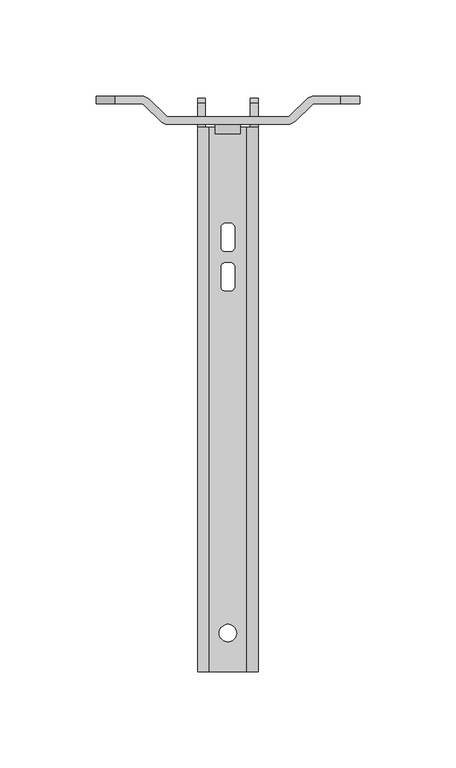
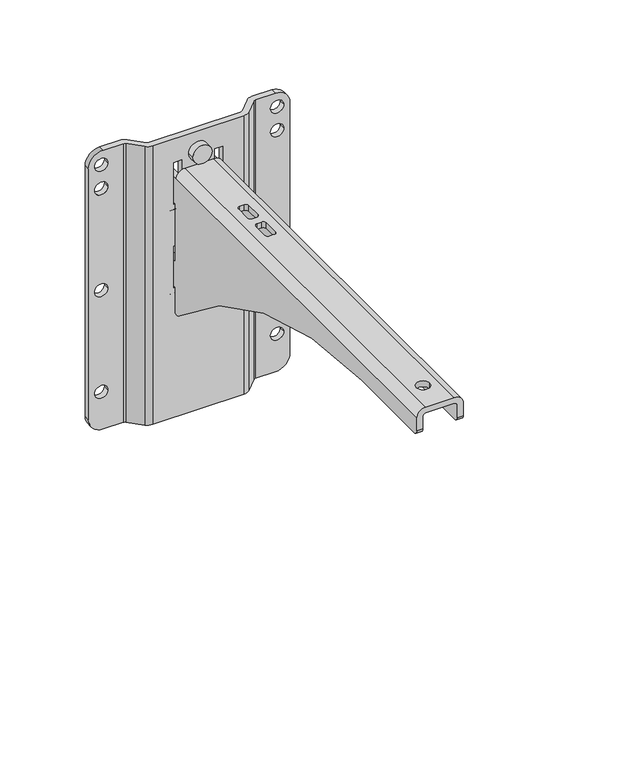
"""IFC4 building model written with IfcOpenShell, lengths in millimetres: proxy geometry, ePS8-WM280-HBRK425-WHM : ePS8-WM280-HBRK425-WHM."""

from ifc_helpers import new_model, si_unit, point, frame, frame_2d, origin, place, context, project, spatial, polyline, circle_curve, trimmed, segment, composite_curve, outline, extrude, source, transform, mapped, element, save
from ifc_brep_helpers import plane_surface, cylinder_surface, revolved_surface, advanced_brep


def generic_models_77c1a001(model_context):
    return source(origin(), model_context, "Body", "SolidModel", [
        advanced_brep(
        [(-11.75, -299.1066017, -18.0), (-9.75, -299.1066017, -16.0), (9.75, -299.1066017, -16.0), (11.75, -299.1066017, -18.0), (11.75, -299.1066017, -27.0), (15.75, -299.1066017, -27.0), (15.75, -299.1066017, -17.9999955), (9.7500045, -299.1066017, -12.0), (-9.7500045, -299.1066017, -12.0), (-15.75, -299.1066017, -17.9999955), (-15.75, -299.1066017, -27.0), (-11.75, -299.1066017, -27.0), (15.75, -1.0, -19.5148645), (15.75, -1.0, -44.4851355), (11.75, -1.0, -44.4851355), (11.75, -1.0, -19.5148645), (15.75, -1.0, -79.5148645), (15.75, -1.0, -104.4851355), (11.75, -1.0, -104.4851355), (11.75, -1.0, -79.5148645), (-11.75, -1.0, -19.5148645), (-11.75, -1.0, -44.4851355), (-15.75, -1.0, -44.4851355), (-15.75, -1.0, -19.5148645), (-11.75, -1.0, -79.5148645), (-11.75, -1.0, -104.4851355), (-15.75, -1.0, -104.4851355), (-15.75, -1.0, -79.5148645), (-15.75, -16.1066017, -17.9999955), (-15.75, -3.6066017, -18.0), (-15.75, -3.6066017, -46.0), (-15.75, -6.6066017, -46.0), (-15.75, -9.6066017, -43.0), (-15.75, -9.6066017, -36.5), (-15.75, -14.6066017, -36.5), (-15.75, -14.6066017, -78.0), (-15.75, -3.6066017, -78.0), (-15.75, -3.6066017, -106.0), (-15.75, -6.6066017, -106.0), (-15.75, -9.6066017, -103.0), (-15.75, -9.6066017, -96.5), (-15.75, -14.6066017, -96.5), (-15.75, -14.6066017, -115.1422902), (-15.75, -17.1105815, -115.1422902), (-15.75, -19.9637275, -113.4674758), (-15.75, -234.1066017, -30.0), (-15.75, -296.1066017, -30.0), (-11.75, -14.6066017, -115.1422902), (-11.75, -17.1105815, -115.1422902), (-11.75, -296.1066017, -30.0), (-11.75, -234.1066017, -30.0), (-11.75, -19.9637275, -113.4674758), (-11.75, -14.6066017, -96.5), (-11.75, -9.6066017, -96.5), (-11.75, -9.6066017, -103.0), (-11.75, -6.6066017, -106.0), (-11.75, -3.6066017, -106.0), (-11.75, -3.6066017, -78.0), (-11.75, -14.6066017, -78.0), (-11.75, -14.6066017, -36.5), (-11.75, -9.6066017, -36.5), (-11.75, -9.6066017, -43.0), (-11.75, -6.6066017, -46.0), (-11.75, -3.6066017, -46.0), (-11.75, -3.6066017, -18.0), (-11.75, -16.1066017, -18.0), (-9.75, -16.1066017, -16.0), (9.75, -16.1066017, -16.0), (-4.5, -279.0, -16.0), (4.5, -279.0, -16.0), (3.5, -78.6066017, -16.0), (3.5, -68.1066017, -16.0), (1.5, -66.1066017, -16.0), (-1.5, -66.1066017, -16.0), (-3.5, -68.1066017, -16.0), (-3.5, -78.6066017, -16.0), (-1.5, -80.6066017, -16.0), (1.5, -80.6066017, -16.0), (3.5, -99.1066017, -16.0), (3.5, -88.6066017, -16.0), (1.5, -86.6066017, -16.0), (-1.5, -86.6066017, -16.0), (-3.5, -88.6066017, -16.0), (-3.5, -99.1066017, -16.0), (-1.5, -101.1066017, -16.0), (1.5, -101.1066017, -16.0), (11.75, -16.1066017, -18.0), (11.75, -3.6066017, -18.0), (11.75, -3.6066017, -46.0), (11.75, -6.6066017, -46.0), (11.75, -9.6066017, -43.0), (11.75, -9.6066017, -36.5), (11.75, -14.6066017, -36.5), (11.75, -14.6066017, -78.0), (11.75, -3.6066017, -78.0), (11.75, -3.6066017, -106.0), (11.75, -6.6066017, -106.0), (11.75, -9.6066017, -103.0), (11.75, -9.6066017, -96.5), (11.75, -14.6066017, -96.5), (11.75, -14.6066017, -115.1422902), (11.75, -17.1105815, -115.1422902), (11.75, -19.9637275, -113.4674758), (11.75, -234.1066017, -30.0), (11.75, -296.1066017, -30.0), (15.75, -14.6066017, -115.1422902), (15.75, -17.1105815, -115.1422902), (15.75, -296.1066017, -30.0), (15.75, -234.1066017, -30.0), (15.75, -19.9637275, -113.4674758), (15.75, -14.6066017, -96.5), (15.75, -9.6066017, -96.5), (15.75, -9.6066017, -103.0), (15.75, -6.6066017, -106.0), (15.75, -3.6066017, -106.0), (15.75, -3.6066017, -78.0), (15.75, -14.6066017, -78.0), (15.75, -14.6066017, -36.5), (15.75, -9.6066017, -36.5), (15.75, -9.6066017, -43.0), (15.75, -6.6066017, -46.0), (15.75, -3.6066017, -46.0), (15.75, -3.6066017, -18.0), (15.75, -16.1066017, -18.0), (9.7500045, -16.1066017, -12.0), (-9.7500045, -16.1066017, -12.0), (4.5, -279.0, -12.0), (-4.5, -279.0, -12.0), (3.5, -68.1066017, -12.0), (3.5, -78.6066017, -12.0), (1.5, -80.6066017, -12.0), (-1.5, -80.6066017, -12.0), (-3.5, -78.6066017, -12.0), (-3.5, -68.1066017, -12.0), (-1.5, -66.1066017, -12.0), (1.5, -66.1066017, -12.0), (3.5, -88.6066017, -12.0), (3.5, -99.1066017, -12.0), (1.5, -101.1066017, -12.0), (-1.5, -101.1066017, -12.0), (-3.5, -99.1066017, -12.0), (-3.5, -88.6066017, -12.0), (-1.5, -86.6066017, -12.0), (1.5, -86.6066017, -12.0)],
        [
            (0, 1, circle_curve(frame((-9.75, -299.1066017, -18.0), z_axis=(0.0, 1.0, 0.0), x_axis=(1.0, 0.0, 0.0)), 2.0)),
            (1, 2),
            (2, 3, circle_curve(frame((9.75, -299.1066017, -18.0), z_axis=(0.0, 1.0, 0.0), x_axis=(-1.0, 0.0, 0.0)), 2.0)),
            (3, 4),
            (4, 5),
            (5, 6),
            (6, 7, circle_curve(frame((9.7500045, -299.1066017, -17.9999955), z_axis=(0.0, -1.0, 0.0), x_axis=(-1.0, 0.0, 0.0)), 5.9999955)),
            (7, 8),
            (8, 9, circle_curve(frame((-9.7500045, -299.1066017, -17.9999955), z_axis=(0.0, -1.0, 0.0), x_axis=(1.0, 0.0, 0.0)), 5.9999955)),
            (9, 10),
            (10, 11),
            (11, 0),
            (12, 13),
            (13, 14),
            (14, 15),
            (15, 12),
            (16, 17),
            (17, 18),
            (18, 19),
            (19, 16),
            (20, 21),
            (21, 22),
            (22, 23),
            (23, 20),
            (24, 25),
            (25, 26),
            (26, 27),
            (27, 24),
            (9, 28),
            (28, 29),
            (29, 23, circle_curve(frame((-15.75, -3.6066017, -21.0), z_axis=(-1.0, 0.0, 0.0), x_axis=(0.0, 1.0, 0.0)), 3.0)),
            (22, 30, circle_curve(frame((-15.75, -3.6066017, -43.0), z_axis=(-1.0, 0.0, 0.0), x_axis=(0.0, 1.0, 0.0)), 3.0)),
            (30, 31),
            (31, 32, circle_curve(frame((-15.75, -6.6066017, -43.0), z_axis=(-1.0, 0.0, 0.0), x_axis=(0.0, 1.0, 0.0)), 3.0)),
            (32, 33),
            (33, 34),
            (34, 35),
            (35, 36),
            (36, 27, circle_curve(frame((-15.75, -3.6066017, -81.0), z_axis=(-1.0, 0.0, 0.0), x_axis=(0.0, 1.0, 0.0)), 3.0)),
            (26, 37, circle_curve(frame((-15.75, -3.6066017, -103.0), z_axis=(-1.0, 0.0, 0.0), x_axis=(0.0, 1.0, 0.0)), 3.0)),
            (37, 38),
            (38, 39, circle_curve(frame((-15.75, -6.6066017, -103.0), z_axis=(-1.0, 0.0, 0.0), x_axis=(0.0, 1.0, 0.0)), 3.0)),
            (39, 40),
            (40, 41),
            (41, 42),
            (42, 43),
            (43, 44, circle_curve(frame((-15.75, -16.5537451, -110.926027), z_axis=(-1.0, 0.0, 0.0), x_axis=(0.0, 1.0, 0.0)), 4.2528746)),
            (44, 45, circle_curve(frame((-15.75, -234.1066017, -346.4345729), z_axis=(1.0, 0.0, 0.0), x_axis=(0.0, 1.0, 0.0)), 316.4345729)),
            (45, 46),
            (46, 10, circle_curve(frame((-15.75, -296.1066017, -27.0), z_axis=(-1.0, 0.0, 0.0), x_axis=(0.0, 1.0, 0.0)), 3.0)),
            (42, 47),
            (47, 48),
            (48, 43),
            (11, 49, circle_curve(frame((-11.75, -296.1066017, -27.0), z_axis=(1.0, 0.0, 0.0), x_axis=(0.0, 1.0, 0.0)), 3.0)),
            (49, 50),
            (50, 51, circle_curve(frame((-11.75, -234.1066017, -346.4345729), z_axis=(-1.0, 0.0, 0.0), x_axis=(0.0, 1.0, 0.0)), 316.4345729)),
            (51, 48, circle_curve(frame((-11.75, -16.5537451, -110.926027), z_axis=(1.0, 0.0, 0.0), x_axis=(0.0, 1.0, 0.0)), 4.2528746)),
            (47, 52),
            (52, 53),
            (53, 54),
            (54, 55, circle_curve(frame((-11.75, -6.6066017, -103.0), z_axis=(1.0, 0.0, 0.0), x_axis=(0.0, 1.0, 0.0)), 3.0)),
            (55, 56),
            (56, 25, circle_curve(frame((-11.75, -3.6066017, -103.0), z_axis=(1.0, 0.0, 0.0), x_axis=(0.0, 1.0, 0.0)), 3.0)),
            (24, 57, circle_curve(frame((-11.75, -3.6066017, -81.0), z_axis=(1.0, 0.0, 0.0), x_axis=(0.0, 1.0, 0.0)), 3.0)),
            (57, 58),
            (58, 59),
            (59, 60),
            (60, 61),
            (61, 62, circle_curve(frame((-11.75, -6.6066017, -43.0), z_axis=(1.0, 0.0, 0.0), x_axis=(0.0, 1.0, 0.0)), 3.0)),
            (62, 63),
            (63, 21, circle_curve(frame((-11.75, -3.6066017, -43.0), z_axis=(1.0, 0.0, 0.0), x_axis=(0.0, 1.0, 0.0)), 3.0)),
            (20, 64, circle_curve(frame((-11.75, -3.6066017, -21.0), z_axis=(1.0, 0.0, 0.0), x_axis=(0.0, 1.0, 0.0)), 3.0)),
            (64, 65),
            (65, 0),
            (65, 66, circle_curve(frame((-9.75, -16.1066017, -18.0), z_axis=(0.0, 1.0, 0.0), x_axis=(1.0, 0.0, 0.0)), 2.0)),
            (66, 1),
            (66, 67),
            (67, 2),
            (68, 69, circle_curve(frame((0.0, -279.0, -16.0), z_axis=(0.0, 0.0, 1.0), x_axis=(1.0, 0.0, 0.0)), 4.5)),
            (69, 68, circle_curve(frame((0.0, -279.0, -16.0), z_axis=(0.0, 0.0, 1.0), x_axis=(1.0, 0.0, 0.0)), 4.5)),
            (70, 71),
            (71, 72, circle_curve(frame((1.5, -68.1066017, -16.0), z_axis=(0.0, 0.0, 1.0), x_axis=(1.0, 0.0, 0.0)), 2.0)),
            (72, 73),
            (73, 74, circle_curve(frame((-1.5, -68.1066017, -16.0), z_axis=(0.0, 0.0, 1.0), x_axis=(-1.0, 0.0, 0.0)), 2.0)),
            (74, 75),
            (75, 76, circle_curve(frame((-1.5, -78.6066017, -16.0), z_axis=(0.0, 0.0, 1.0), x_axis=(-1.0, 0.0, 0.0)), 2.0)),
            (76, 77),
            (77, 70, circle_curve(frame((1.5, -78.6066017, -16.0), z_axis=(0.0, 0.0, 1.0), x_axis=(1.0, 0.0, 0.0)), 2.0)),
            (78, 79),
            (79, 80, circle_curve(frame((1.5, -88.6066017, -16.0), z_axis=(0.0, 0.0, 1.0), x_axis=(1.0, 0.0, 0.0)), 2.0)),
            (80, 81),
            (81, 82, circle_curve(frame((-1.5, -88.6066017, -16.0), z_axis=(0.0, 0.0, 1.0), x_axis=(-1.0, 0.0, 0.0)), 2.0)),
            (82, 83),
            (83, 84, circle_curve(frame((-1.5, -99.1066017, -16.0), z_axis=(0.0, 0.0, 1.0), x_axis=(-1.0, 0.0, 0.0)), 2.0)),
            (84, 85),
            (85, 78, circle_curve(frame((1.5, -99.1066017, -16.0), z_axis=(0.0, 0.0, 1.0), x_axis=(1.0, 0.0, 0.0)), 2.0)),
            (67, 86, circle_curve(frame((9.75, -16.1066017, -18.0), z_axis=(0.0, 1.0, 0.0), x_axis=(-1.0, 0.0, 0.0)), 2.0)),
            (86, 3),
            (86, 87),
            (87, 15, circle_curve(frame((11.75, -3.6066017, -21.0), z_axis=(-1.0, 0.0, 0.0), x_axis=(0.0, 1.0, 0.0)), 3.0)),
            (14, 88, circle_curve(frame((11.75, -3.6066017, -43.0), z_axis=(-1.0, 0.0, 0.0), x_axis=(0.0, 1.0, 0.0)), 3.0)),
            (88, 89),
            (89, 90, circle_curve(frame((11.75, -6.6066017, -43.0), z_axis=(-1.0, 0.0, 0.0), x_axis=(0.0, 1.0, 0.0)), 3.0)),
            (90, 91),
            (91, 92),
            (92, 93),
            (93, 94),
            (94, 19, circle_curve(frame((11.75, -3.6066017, -81.0), z_axis=(-1.0, 0.0, 0.0), x_axis=(0.0, 1.0, 0.0)), 3.0)),
            (18, 95, circle_curve(frame((11.75, -3.6066017, -103.0), z_axis=(-1.0, 0.0, 0.0), x_axis=(0.0, 1.0, 0.0)), 3.0)),
            (95, 96),
            (96, 97, circle_curve(frame((11.75, -6.6066017, -103.0), z_axis=(-1.0, 0.0, 0.0), x_axis=(0.0, 1.0, 0.0)), 3.0)),
            (97, 98),
            (98, 99),
            (99, 100),
            (100, 101),
            (101, 102, circle_curve(frame((11.75, -16.5537451, -110.926027), z_axis=(-1.0, 0.0, 0.0), x_axis=(0.0, 1.0, 0.0)), 4.2528746)),
            (102, 103, circle_curve(frame((11.75, -234.1066017, -346.4345729), z_axis=(1.0, 0.0, 0.0), x_axis=(0.0, 1.0, 0.0)), 316.4345729)),
            (103, 104),
            (104, 4, circle_curve(frame((11.75, -296.1066017, -27.0), z_axis=(-1.0, 0.0, 0.0), x_axis=(0.0, 1.0, 0.0)), 3.0)),
            (100, 105),
            (105, 106),
            (106, 101),
            (5, 107, circle_curve(frame((15.75, -296.1066017, -27.0), z_axis=(1.0, 0.0, 0.0), x_axis=(0.0, 1.0, 0.0)), 3.0)),
            (107, 108),
            (108, 109, circle_curve(frame((15.75, -234.1066017, -346.4345729), z_axis=(-1.0, 0.0, 0.0), x_axis=(0.0, 1.0, 0.0)), 316.4345729)),
            (109, 106, circle_curve(frame((15.75, -16.5537451, -110.926027), z_axis=(1.0, 0.0, 0.0), x_axis=(0.0, 1.0, 0.0)), 4.2528746)),
            (105, 110),
            (110, 111),
            (111, 112),
            (112, 113, circle_curve(frame((15.75, -6.6066017, -103.0), z_axis=(1.0, 0.0, 0.0), x_axis=(0.0, 1.0, 0.0)), 3.0)),
            (113, 114),
            (114, 17, circle_curve(frame((15.75, -3.6066017, -103.0), z_axis=(1.0, 0.0, 0.0), x_axis=(0.0, 1.0, 0.0)), 3.0)),
            (16, 115, circle_curve(frame((15.75, -3.6066017, -81.0), z_axis=(1.0, 0.0, 0.0), x_axis=(0.0, 1.0, 0.0)), 3.0)),
            (115, 116),
            (116, 117),
            (117, 118),
            (118, 119),
            (119, 120, circle_curve(frame((15.75, -6.6066017, -43.0), z_axis=(1.0, 0.0, 0.0), x_axis=(0.0, 1.0, 0.0)), 3.0)),
            (120, 121),
            (121, 13, circle_curve(frame((15.75, -3.6066017, -43.0), z_axis=(1.0, 0.0, 0.0), x_axis=(0.0, 1.0, 0.0)), 3.0)),
            (12, 122, circle_curve(frame((15.75, -3.6066017, -21.0), z_axis=(1.0, 0.0, 0.0), x_axis=(0.0, 1.0, 0.0)), 3.0)),
            (122, 123),
            (123, 6),
            (123, 124, circle_curve(frame((9.7500045, -16.1066017, -17.9999955), z_axis=(0.0, -1.0, 0.0), x_axis=(-1.0, 0.0, 0.0)), 5.9999955)),
            (124, 7),
            (124, 125),
            (125, 8),
            (126, 127, circle_curve(frame((0.0, -279.0, -12.0), z_axis=(0.0, 0.0, -1.0), x_axis=(1.0, 0.0, 0.0)), 4.5)),
            (127, 126, circle_curve(frame((0.0, -279.0, -12.0), z_axis=(0.0, 0.0, -1.0), x_axis=(1.0, 0.0, 0.0)), 4.5)),
            (128, 129),
            (129, 130, circle_curve(frame((1.5, -78.6066017, -12.0), z_axis=(0.0, 0.0, -1.0), x_axis=(1.0, 0.0, 0.0)), 2.0)),
            (130, 131),
            (131, 132, circle_curve(frame((-1.5, -78.6066017, -12.0), z_axis=(0.0, 0.0, -1.0), x_axis=(-1.0, 0.0, 0.0)), 2.0)),
            (132, 133),
            (133, 134, circle_curve(frame((-1.5, -68.1066017, -12.0), z_axis=(0.0, 0.0, -1.0), x_axis=(-1.0, 0.0, 0.0)), 2.0)),
            (134, 135),
            (135, 128, circle_curve(frame((1.5, -68.1066017, -12.0), z_axis=(0.0, 0.0, -1.0), x_axis=(1.0, 0.0, 0.0)), 2.0)),
            (136, 137),
            (137, 138, circle_curve(frame((1.5, -99.1066017, -12.0), z_axis=(0.0, 0.0, -1.0), x_axis=(1.0, 0.0, 0.0)), 2.0)),
            (138, 139),
            (139, 140, circle_curve(frame((-1.5, -99.1066017, -12.0), z_axis=(0.0, 0.0, -1.0), x_axis=(-1.0, 0.0, 0.0)), 2.0)),
            (140, 141),
            (141, 142, circle_curve(frame((-1.5, -88.6066017, -12.0), z_axis=(0.0, 0.0, -1.0), x_axis=(-1.0, 0.0, 0.0)), 2.0)),
            (142, 143),
            (143, 136, circle_curve(frame((1.5, -88.6066017, -12.0), z_axis=(0.0, 0.0, -1.0), x_axis=(1.0, 0.0, 0.0)), 2.0)),
            (125, 28, circle_curve(frame((-9.7500045, -16.1066017, -17.9999955), z_axis=(0.0, -1.0, 0.0), x_axis=(1.0, 0.0, 0.0)), 5.9999955)),
            (46, 49),
            (104, 107),
            (51, 44),
            (109, 102),
            (45, 50),
            (103, 108),
            (30, 63),
            (62, 31),
            (88, 121),
            (120, 89),
            (32, 61),
            (60, 33),
            (90, 119),
            (118, 91),
            (59, 34),
            (117, 92),
            (41, 52),
            (99, 110),
            (65, 28),
            (123, 86),
            (64, 29),
            (122, 87),
            (58, 35),
            (116, 93),
            (57, 36),
            (115, 94),
            (56, 37),
            (114, 95),
            (55, 38),
            (113, 96),
            (54, 39),
            (112, 97),
            (53, 40),
            (111, 98),
            (68, 127),
            (126, 69),
            (70, 129),
            (128, 71),
            (135, 72),
            (134, 73),
            (133, 74),
            (132, 75),
            (131, 76),
            (130, 77),
            (78, 137),
            (136, 79),
            (143, 80),
            (142, 81),
            (141, 82),
            (140, 83),
            (139, 84),
            (138, 85),
        ],
        [
            plane_surface(frame((-15.75, -299.1066017, -111.5465509), z_axis=(0.0, -1.0, 0.0), x_axis=(0.0, 0.0, -1.0))),
            plane_surface(frame((-15.75, -1.0, -111.5465509), z_axis=(0.0, 1.0, 0.0), x_axis=(0.0, 0.0, 1.0))),
            plane_surface(frame((-15.75, -299.1066017, -17.9999955), z_axis=(-1.0, 0.0, 0.0), x_axis=(0.0, 1.0, 0.0))),
            plane_surface(frame((-15.75, -299.1066017, -115.1422902), z_axis=(0.0, 0.0, -1.0), x_axis=(0.0, 1.0, 0.0))),
            plane_surface(frame((-11.75, -299.1066017, -115.1422902), z_axis=(1.0, 0.0, 0.0), x_axis=(0.0, 1.0, 0.0))),
            revolved_surface(polyline([(-7.75, -16.1066017, -18.0), (-7.75, -299.1066017, -18.0)]), (-9.75, -1.0, -18.0), (0.0, 1.0, 0.0)),
            plane_surface(frame((-9.75, -299.1066017, -16.0), z_axis=(0.0, 0.0, -1.0), x_axis=(0.0, 1.0, 0.0))),
            revolved_surface(polyline([(7.75, -16.1066017, -18.0), (7.75, -299.1066017, -18.0)]), (9.75, -1.0, -18.0), (0.0, 1.0, 0.0)),
            plane_surface(frame((11.75, -299.1066017, -18.0), z_axis=(-1.0, 0.0, 0.0), x_axis=(0.0, 1.0, 0.0))),
            plane_surface(frame((11.75, -299.1066017, -115.1422902), z_axis=(0.0, 0.0, -1.0), x_axis=(0.0, 1.0, 0.0))),
            plane_surface(frame((15.75, -299.1066017, -115.1422902), z_axis=(1.0, 0.0, 0.0), x_axis=(0.0, 1.0, 0.0))),
            cylinder_surface(frame((9.7500045, -1.0, -17.9999955), z_axis=(0.0, -1.0, 0.0), x_axis=(-1.0, 0.0, 0.0)), 5.9999955),
            plane_surface(frame((9.7500045, -299.1066017, -12.0), z_axis=(0.0, 0.0, 1.0), x_axis=(0.0, 1.0, 0.0))),
            cylinder_surface(frame((-9.7500045, -1.0, -17.9999955), z_axis=(0.0, -1.0, 0.0), x_axis=(1.0, 0.0, 0.0)), 5.9999955),
            cylinder_surface(frame((-20.0, -296.1066017, -27.0), z_axis=(-1.0, 0.0, 0.0), x_axis=(0.0, 1.0, 0.0)), 3.0),
            cylinder_surface(frame((-20.0, -16.5537451, -110.926027), z_axis=(-1.0, 0.0, 0.0), x_axis=(0.0, 1.0, 0.0)), 4.2528746),
            plane_surface(frame((20.0, -234.1066017, -30.0), z_axis=(0.0, 0.0, -1.0), x_axis=(-1.0, 0.0, 0.0))),
            plane_surface(frame((20.0, -3.6066017, -46.0), z_axis=(0.0, 0.0, -1.0), x_axis=(-1.0, 0.0, 0.0))),
            plane_surface(frame((20.0, -9.6066017, -43.0), z_axis=(0.0, -1.0, 0.0), x_axis=(-1.0, 0.0, 0.0))),
            plane_surface(frame((20.0, -9.6066017, -36.5), z_axis=(0.0, 0.0, -1.0), x_axis=(-1.0, 0.0, 0.0))),
            plane_surface(frame((20.0, -14.6066017, -96.5), z_axis=(0.0, 1.0, 0.0), x_axis=(-1.0, 0.0, 0.0))),
            plane_surface(frame((20.0, -16.1066017, -12.0), z_axis=(0.0, 1.0, 0.0), x_axis=(-1.0, 0.0, 0.0))),
            plane_surface(frame((20.0, -16.1066017, -18.0), z_axis=(0.0, 0.0, 1.0), x_axis=(-1.0, 0.0, 0.0))),
            cylinder_surface(frame((0.0, -3.6066017, -21.0), z_axis=(-1.0, 0.0, 0.0), x_axis=(0.0, 1.0, 0.0)), 3.0),
            cylinder_surface(frame((0.0, -3.6066017, -43.0), z_axis=(-1.0, 0.0, 0.0), x_axis=(0.0, 1.0, 0.0)), 3.0),
            cylinder_surface(frame((0.0, -6.6066017, -43.0), z_axis=(-1.0, 0.0, 0.0), x_axis=(0.0, 1.0, 0.0)), 3.0),
            plane_surface(frame((20.0, -14.6066017, -36.5), z_axis=(0.0, 1.0, 0.0), x_axis=(-1.0, 0.0, 0.0))),
            plane_surface(frame((20.0, -14.6066017, -78.0), z_axis=(0.0, 0.0, 1.0), x_axis=(-1.0, 0.0, 0.0))),
            cylinder_surface(frame((0.0, -3.6066017, -81.0), z_axis=(-1.0, 0.0, 0.0), x_axis=(0.0, 1.0, 0.0)), 3.0),
            cylinder_surface(frame((0.0, -3.6066017, -103.0), z_axis=(-1.0, 0.0, 0.0), x_axis=(0.0, 1.0, 0.0)), 3.0),
            plane_surface(frame((20.0, -3.6066017, -106.0), z_axis=(0.0, 0.0, -1.0), x_axis=(-1.0, 0.0, 0.0))),
            cylinder_surface(frame((0.0, -6.6066017, -103.0), z_axis=(-1.0, 0.0, 0.0), x_axis=(0.0, 1.0, 0.0)), 3.0),
            plane_surface(frame((20.0, -9.6066017, -103.0), z_axis=(0.0, -1.0, 0.0), x_axis=(-1.0, 0.0, 0.0))),
            plane_surface(frame((20.0, -9.6066017, -96.5), z_axis=(0.0, 0.0, -1.0), x_axis=(-1.0, 0.0, 0.0))),
            revolved_surface(polyline([(4.5, -279.0, -12.0), (4.5, -279.0, -16.0)]), (0.0, -279.0, -18.0), (0.0, 0.0, 1.0)),
            plane_surface(frame((3.5, -78.6066017, -12.0), z_axis=(-1.0, 0.0, 0.0), x_axis=(0.0, 0.0, -1.0))),
            revolved_surface(polyline([(3.5, -68.1066017, -12.0), (3.5, -68.1066017, -16.0)]), (1.5, -68.1066017, -12.0), (0.0, 0.0, 1.0)),
            plane_surface(frame((1.5, -66.1066017, -12.0), z_axis=(0.0, -1.0, 0.0), x_axis=(0.0, 0.0, -1.0))),
            revolved_surface(polyline([(-3.5, -68.1066017, -12.0), (-3.5, -68.1066017, -16.0)]), (-1.5, -68.1066017, -12.0), (0.0, 0.0, 1.0)),
            plane_surface(frame((-3.5, -68.1066017, -12.0), z_axis=(1.0, 0.0, 0.0), x_axis=(0.0, 0.0, -1.0))),
            revolved_surface(polyline([(-3.5, -78.6066017, -12.0), (-3.5, -78.6066017, -16.0)]), (-1.5, -78.6066017, -12.0), (0.0, 0.0, 1.0)),
            plane_surface(frame((-1.5, -80.6066017, -12.0), z_axis=(0.0, 1.0, 0.0), x_axis=(0.0, 0.0, -1.0))),
            revolved_surface(polyline([(3.5, -78.6066017, -12.0), (3.5, -78.6066017, -16.0)]), (1.5, -78.6066017, -12.0), (0.0, 0.0, 1.0)),
            plane_surface(frame((3.5, -99.1066017, -12.0), z_axis=(-1.0, 0.0, 0.0), x_axis=(0.0, 0.0, -1.0))),
            revolved_surface(polyline([(3.5, -88.6066017, -12.0), (3.5, -88.6066017, -16.0)]), (1.5, -88.6066017, -12.0), (0.0, 0.0, 1.0)),
            plane_surface(frame((1.5, -86.6066017, -12.0), z_axis=(0.0, -1.0, 0.0), x_axis=(0.0, 0.0, -1.0))),
            revolved_surface(polyline([(-3.5, -88.6066017, -12.0), (-3.5, -88.6066017, -16.0)]), (-1.5, -88.6066017, -12.0), (0.0, 0.0, 1.0)),
            plane_surface(frame((-3.5, -88.6066017, -12.0), z_axis=(1.0, 0.0, 0.0), x_axis=(0.0, 0.0, -1.0))),
            revolved_surface(polyline([(-3.5, -99.1066017, -12.0), (-3.5, -99.1066017, -16.0)]), (-1.5, -99.1066017, -12.0), (0.0, 0.0, 1.0)),
            plane_surface(frame((-1.5, -101.1066017, -12.0), z_axis=(0.0, 1.0, 0.0), x_axis=(0.0, 0.0, -1.0))),
            revolved_surface(polyline([(3.5, -99.1066017, -12.0), (3.5, -99.1066017, -16.0)]), (1.5, -99.1066017, -12.0), (0.0, 0.0, 1.0)),
            revolved_surface(polyline([(-11.75, 82.32797119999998, -346.4345729), (-15.75, 82.32797119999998, -346.4345729)]), (-20.0, -234.1066017, -346.4345729), (1.0, 0.0, 0.0)),
            revolved_surface(polyline([(15.75, 82.32797119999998, -346.4345729), (11.75, 82.32797119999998, -346.4345729)]), (-20.0, -234.1066017, -346.4345729), (1.0, 0.0, 0.0)),
        ],
        [
            (0, [[1, 2, 3, 4, 5, 6, 7, 8, 9, 10, 11, 12]]),
            (1, [[13, 14, 15, 16]]),
            (1, [[17, 18, 19, 20]]),
            (1, [[21, 22, 23, 24]]),
            (1, [[25, 26, 27, 28]]),
            (2, [[-10, 29, 30, 31, -23, 32, 33, 34, 35, 36, 37, 38, 39, -27, 40, 41, 42, 43, 44, 45, 46, 47, 48, 49, 50]]),
            (3, [[-46, 51, 52, 53]]),
            (4, [[-12, 54, 55, 56, 57, -52, 58, 59, 60, 61, 62, 63, -25, 64, 65, 66, 67, 68, 69, 70, 71, -21, 72, 73, 74]]),
            (5, [[-1, -74, 75, 76]]),
            (6, [[-2, -76, 77, 78], [79, 80], [81, 82, 83, 84, 85, 86, 87, 88], [89, 90, 91, 92, 93, 94, 95, 96]]),
            (7, [[-3, -78, 97, 98]]),
            (8, [[-4, -98, 99, 100, -15, 101, 102, 103, 104, 105, 106, 107, 108, -19, 109, 110, 111, 112, 113, 114, 115, 116, 117, 118, 119]]),
            (9, [[-115, 120, 121, 122]]),
            (10, [[-6, 123, 124, 125, 126, -121, 127, 128, 129, 130, 131, 132, -17, 133, 134, 135, 136, 137, 138, 139, 140, -13, 141, 142, 143]]),
            (11, [[-7, -143, 144, 145]]),
            (12, [[-8, -145, 146, 147], [148, 149], [150, 151, 152, 153, 154, 155, 156, 157], [158, 159, 160, 161, 162, 163, 164, 165]]),
            (13, [[-9, -147, 166, -29]]),
            (14, [[167, -54, -11, -50]]),
            (14, [[168, -123, -5, -119]]),
            (15, [[169, -47, -53, -57]]),
            (15, [[170, -116, -122, -126]]),
            (16, [[-167, -49, 171, -55]]),
            (16, [[-168, -118, 172, -124]]),
            (17, [[173, -70, 174, -33]]),
            (17, [[175, -139, 176, -102]]),
            (18, [[177, -68, 178, -35]]),
            (18, [[179, -137, 180, -104]]),
            (19, [[-178, -67, 181, -36]]),
            (19, [[-180, -136, 182, -105]]),
            (20, [[183, -58, -51, -45]]),
            (20, [[184, -127, -120, -114]]),
            (21, [[185, -166, -146, -144, 186, -97, -77, -75]]),
            (22, [[-185, -73, 187, -30]]),
            (22, [[-186, -142, 188, -99]]),
            (23, [[-187, -72, -24, -31]]),
            (23, [[-188, -141, -16, -100]]),
            (24, [[-173, -32, -22, -71]]),
            (24, [[-175, -101, -14, -140]]),
            (25, [[-177, -34, -174, -69]]),
            (25, [[-179, -103, -176, -138]]),
            (26, [[-181, -66, 189, -37]]),
            (26, [[-182, -135, 190, -106]]),
            (27, [[-189, -65, 191, -38]]),
            (27, [[-190, -134, 192, -107]]),
            (28, [[-191, -64, -28, -39]]),
            (28, [[-192, -133, -20, -108]]),
            (29, [[193, -40, -26, -63]]),
            (29, [[194, -109, -18, -132]]),
            (30, [[-193, -62, 195, -41]]),
            (30, [[-194, -131, 196, -110]]),
            (31, [[-195, -61, 197, -42]]),
            (31, [[-196, -130, 198, -111]]),
            (32, [[-197, -60, 199, -43]]),
            (32, [[-198, -129, 200, -112]]),
            (33, [[-183, -44, -199, -59]]),
            (33, [[-184, -113, -200, -128]]),
            (34, [[201, -148, 202, -79]]),
            (34, [[-201, -80, -202, -149]]),
            (35, [[203, -150, 204, -81]]),
            (36, [[-204, -157, 205, -82]]),
            (37, [[-205, -156, 206, -83]]),
            (38, [[-206, -155, 207, -84]]),
            (39, [[-207, -154, 208, -85]]),
            (40, [[-208, -153, 209, -86]]),
            (41, [[-209, -152, 210, -87]]),
            (42, [[-203, -88, -210, -151]]),
            (43, [[211, -158, 212, -89]]),
            (44, [[-212, -165, 213, -90]]),
            (45, [[-213, -164, 214, -91]]),
            (46, [[-214, -163, 215, -92]]),
            (47, [[-215, -162, 216, -93]]),
            (48, [[-216, -161, 217, -94]]),
            (49, [[-217, -160, 218, -95]]),
            (50, [[-211, -96, -218, -159]]),
            (51, [[-171, -48, -169, -56]]),
            (52, [[-172, -117, -170, -125]]),
        ],
    ),
        extrude(outline(composite_curve([segment(trimmed(circle_curve(frame_2d((-3.5647723, 0.0)), 6.5342939), [point((-3.5647723, -6.5342939))], [point((-3.5647723, 6.5342939))], False, "CARTESIAN"), True, "CONTINUOUS"), segment(trimmed(circle_curve(frame_2d((-3.5647723, 0.0)), 6.5342939), [point((-3.5647723, 6.5342939))], [point((-3.5647723, -6.5342939))], False, "CARTESIAN"), True, "CONTINUOUS")], self_intersect=False)), frame((0.0, -19.6066017, 0.0), z_axis=(0.0, 1.0, 0.0), x_axis=(0.0, 0.0, 1.0)), (0.0, 0.0, 1.0), 5.0),
        advanced_brep(
        [(44.9203102, 0.0, 10.5), (40.6776695, -1.7573593, 10.5), (32.4142136, -10.0208153, 10.5), (31.0, -10.6066017, 10.5), (-31.0, -10.6066017, 10.5), (-32.4142136, -10.0208153, 10.5), (-40.6776695, -1.7573593, 10.5), (-44.9203102, 0.0, 10.5), (-58.4350288, 0.0, 10.5), (-58.4350288, -4.0, 10.5), (-44.9203102, -4.0, 10.5), (-43.5060967, -4.5857864, 10.5), (-35.2426407, -12.8492424, 10.5), (-31.0, -14.6066017, 10.5), (31.0, -14.6066017, 10.5), (35.2426407, -12.8492424, 10.5), (43.5060967, -4.5857864, 10.5), (44.9203102, -4.0, 10.5), (58.4350288, -4.0, 10.5), (58.4350288, 0.0, 10.5), (44.9203102, -4.0, -189.5), (43.5060967, -4.5857864, -189.5), (35.2426407, -12.8492424, -189.5), (31.0, -14.6066017, -189.5), (-31.0, -14.6066017, -189.5), (-35.2426407, -12.8492424, -189.5), (-43.5060967, -4.5857864, -189.5), (-44.9203102, -4.0, -189.5), (-58.4350288, -4.0, -189.5), (-58.4350288, 0.0, -189.5), (-44.9203102, 0.0, -189.5), (-40.6776695, -1.7573593, -189.5), (-32.4142136, -10.0208153, -189.5), (-31.0, -10.6066017, -189.5), (31.0, -10.6066017, -189.5), (32.4142136, -10.0208153, -189.5), (40.6776695, -1.7573593, -189.5), (44.9203102, 0.0, -189.5), (58.4350288, 0.0, -189.5), (58.4350288, -4.0, -189.5), (68.4350288, 0.0, 0.5), (68.4350288, 0.0, -179.5), (55.1844308, 0.0, 0.5), (64.1844308, 0.0, 0.5), (55.1844308, 0.0, -16.5), (64.1844308, 0.0, -16.5), (55.1844308, 0.0, -89.5), (64.1844308, 0.0, -89.5), (55.1844308, 0.0, -162.5), (64.1844308, 0.0, -162.5), (16.75, -10.6066017, -6.5), (11.25, -10.6066017, -6.5), (11.25, -10.6066017, -36.5), (16.75, -10.6066017, -36.5), (16.75, -10.6066017, -66.5), (11.25, -10.6066017, -66.5), (11.25, -10.6066017, -96.5), (16.75, -10.6066017, -96.5), (-16.75, -10.6066017, -6.5), (-16.75, -10.6066017, -36.5), (-11.25, -10.6066017, -36.5), (-11.25, -10.6066017, -6.5), (-16.75, -10.6066017, -66.5), (-16.75, -10.6066017, -96.5), (-11.25, -10.6066017, -96.5), (-11.25, -10.6066017, -66.5), (-68.4350288, 0.0, -179.5), (-68.4350288, 0.0, 0.5), (-55.1844308, 0.0, 0.5), (-64.1844308, 0.0, 0.5), (-55.1844308, 0.0, -16.5), (-64.1844308, 0.0, -16.5), (-55.1844308, 0.0, -89.5), (-64.1844308, 0.0, -89.5), (-55.1844308, 0.0, -162.5), (-64.1844308, 0.0, -162.5), (-68.4350288, -4.0, -179.5), (-68.4350288, -4.0, 0.5), (-64.1844308, -4.0, 0.5), (-55.1844308, -4.0, 0.5), (-64.1844308, -4.0, -16.5), (-55.1844308, -4.0, -16.5), (-64.1844308, -4.0, -89.5), (-55.1844308, -4.0, -89.5), (-64.1844308, -4.0, -162.5), (-55.1844308, -4.0, -162.5), (11.25, -14.6066017, -6.5), (16.75, -14.6066017, -6.5), (16.75, -14.6066017, -36.5), (11.25, -14.6066017, -36.5), (11.25, -14.6066017, -66.5), (16.75, -14.6066017, -66.5), (16.75, -14.6066017, -96.5), (11.25, -14.6066017, -96.5), (-16.75, -14.6066017, -36.5), (-16.75, -14.6066017, -6.5), (-11.25, -14.6066017, -6.5), (-11.25, -14.6066017, -36.5), (-16.75, -14.6066017, -96.5), (-16.75, -14.6066017, -66.5), (-11.25, -14.6066017, -66.5), (-11.25, -14.6066017, -96.5), (68.4350288, -4.0, -179.5), (68.4350288, -4.0, 0.5), (64.1844308, -4.0, 0.5), (55.1844308, -4.0, 0.5), (64.1844308, -4.0, -16.5), (55.1844308, -4.0, -16.5), (64.1844308, -4.0, -89.5), (55.1844308, -4.0, -89.5), (64.1844308, -4.0, -162.5), (55.1844308, -4.0, -162.5)],
        [
            (0, 1, circle_curve(frame((44.9203102, -6.0, 10.5), z_axis=(0.0, 0.0, 1.0), x_axis=(1.0, 0.0, 0.0)), 6.0)),
            (1, 2),
            (2, 3, circle_curve(frame((31.0, -8.6066017, 10.5), z_axis=(0.0, 0.0, -1.0), x_axis=(1.0, 0.0, 0.0)), 2.0)),
            (3, 4),
            (4, 5, circle_curve(frame((-31.0, -8.6066017, 10.5), z_axis=(0.0, 0.0, -1.0), x_axis=(1.0, 0.0, 0.0)), 2.0)),
            (5, 6),
            (6, 7, circle_curve(frame((-44.9203102, -6.0, 10.5), z_axis=(0.0, 0.0, 1.0), x_axis=(1.0, 0.0, 0.0)), 6.0)),
            (7, 8),
            (8, 9),
            (9, 10),
            (10, 11, circle_curve(frame((-44.9203102, -6.0, 10.5), z_axis=(0.0, 0.0, -1.0), x_axis=(1.0, 0.0, 0.0)), 2.0)),
            (11, 12),
            (12, 13, circle_curve(frame((-31.0, -8.6066017, 10.5), z_axis=(0.0, 0.0, 1.0), x_axis=(1.0, 0.0, 0.0)), 6.0)),
            (13, 14),
            (14, 15, circle_curve(frame((31.0, -8.6066017, 10.5), z_axis=(0.0, 0.0, 1.0), x_axis=(1.0, 0.0, 0.0)), 6.0)),
            (15, 16),
            (16, 17, circle_curve(frame((44.9203102, -6.0, 10.5), z_axis=(0.0, 0.0, -1.0), x_axis=(1.0, 0.0, 0.0)), 2.0)),
            (17, 18),
            (18, 19),
            (19, 0),
            (20, 21, circle_curve(frame((44.9203102, -6.0, -189.5), z_axis=(0.0, 0.0, 1.0), x_axis=(1.0, 0.0, 0.0)), 2.0)),
            (21, 22),
            (22, 23, circle_curve(frame((31.0, -8.6066017, -189.5), z_axis=(0.0, 0.0, -1.0), x_axis=(1.0, 0.0, 0.0)), 6.0)),
            (23, 24),
            (24, 25, circle_curve(frame((-31.0, -8.6066017, -189.5), z_axis=(0.0, 0.0, -1.0), x_axis=(1.0, 0.0, 0.0)), 6.0)),
            (25, 26),
            (26, 27, circle_curve(frame((-44.9203102, -6.0, -189.5), z_axis=(0.0, 0.0, 1.0), x_axis=(1.0, 0.0, 0.0)), 2.0)),
            (27, 28),
            (28, 29),
            (29, 30),
            (30, 31, circle_curve(frame((-44.9203102, -6.0, -189.5), z_axis=(0.0, 0.0, -1.0), x_axis=(1.0, 0.0, 0.0)), 6.0)),
            (31, 32),
            (32, 33, circle_curve(frame((-31.0, -8.6066017, -189.5), z_axis=(0.0, 0.0, 1.0), x_axis=(1.0, 0.0, 0.0)), 2.0)),
            (33, 34),
            (34, 35, circle_curve(frame((31.0, -8.6066017, -189.5), z_axis=(0.0, 0.0, 1.0), x_axis=(1.0, 0.0, 0.0)), 2.0)),
            (35, 36),
            (36, 37, circle_curve(frame((44.9203102, -6.0, -189.5), z_axis=(0.0, 0.0, -1.0), x_axis=(1.0, 0.0, 0.0)), 6.0)),
            (37, 38),
            (38, 39),
            (39, 20),
            (37, 0),
            (19, 40, circle_curve(frame((58.4350288, 0.0, 0.5), z_axis=(0.0, 1.0, 0.0), x_axis=(1.0, 0.0, 0.0)), 10.0)),
            (40, 41),
            (41, 38, circle_curve(frame((58.4350288, 0.0, -179.5), z_axis=(0.0, 1.0, 0.0), x_axis=(1.0, 0.0, 0.0)), 10.0)),
            (42, 43, circle_curve(frame((59.6844308, 0.0, 0.5), z_axis=(0.0, -1.0, 0.0), x_axis=(1.0, 0.0, 0.0)), 4.5)),
            (43, 42, circle_curve(frame((59.6844308, 0.0, 0.5), z_axis=(0.0, -1.0, 0.0), x_axis=(1.0, 0.0, 0.0)), 4.5)),
            (44, 45, circle_curve(frame((59.6844308, 0.0, -16.5), z_axis=(0.0, -1.0, 0.0), x_axis=(1.0, 0.0, 0.0)), 4.5)),
            (45, 44, circle_curve(frame((59.6844308, 0.0, -16.5), z_axis=(0.0, -1.0, 0.0), x_axis=(1.0, 0.0, 0.0)), 4.5)),
            (46, 47, circle_curve(frame((59.6844308, 0.0, -89.5), z_axis=(0.0, -1.0, 0.0), x_axis=(1.0, 0.0, 0.0)), 4.5)),
            (47, 46, circle_curve(frame((59.6844308, 0.0, -89.5), z_axis=(0.0, -1.0, 0.0), x_axis=(1.0, 0.0, 0.0)), 4.5)),
            (48, 49, circle_curve(frame((59.6844308, 0.0, -162.5), z_axis=(0.0, -1.0, 0.0), x_axis=(1.0, 0.0, 0.0)), 4.5)),
            (49, 48, circle_curve(frame((59.6844308, 0.0, -162.5), z_axis=(0.0, -1.0, 0.0), x_axis=(1.0, 0.0, 0.0)), 4.5)),
            (36, 1),
            (35, 2),
            (34, 3),
            (33, 4),
            (50, 51),
            (51, 52),
            (52, 53),
            (53, 50),
            (54, 55),
            (55, 56),
            (56, 57),
            (57, 54),
            (58, 59),
            (59, 60),
            (60, 61),
            (61, 58),
            (62, 63),
            (63, 64),
            (64, 65),
            (65, 62),
            (32, 5),
            (31, 6),
            (30, 7),
            (29, 66, circle_curve(frame((-58.4350288, 0.0, -179.5), z_axis=(0.0, 1.0, 0.0), x_axis=(-1.0, 0.0, 0.0)), 10.0)),
            (66, 67),
            (67, 8, circle_curve(frame((-58.4350288, 0.0, 0.5), z_axis=(0.0, 1.0, 0.0), x_axis=(-1.0, 0.0, 0.0)), 10.0)),
            (68, 69, circle_curve(frame((-59.6844308, 0.0, 0.5), z_axis=(0.0, -1.0, 0.0), x_axis=(-1.0, 0.0, 0.0)), 4.5)),
            (69, 68, circle_curve(frame((-59.6844308, 0.0, 0.5), z_axis=(0.0, -1.0, 0.0), x_axis=(-1.0, 0.0, 0.0)), 4.5)),
            (70, 71, circle_curve(frame((-59.6844308, 0.0, -16.5), z_axis=(0.0, -1.0, 0.0), x_axis=(-1.0, 0.0, 0.0)), 4.5)),
            (71, 70, circle_curve(frame((-59.6844308, 0.0, -16.5), z_axis=(0.0, -1.0, 0.0), x_axis=(-1.0, 0.0, 0.0)), 4.5)),
            (72, 73, circle_curve(frame((-59.6844308, 0.0, -89.5), z_axis=(0.0, -1.0, 0.0), x_axis=(-1.0, 0.0, 0.0)), 4.5)),
            (73, 72, circle_curve(frame((-59.6844308, 0.0, -89.5), z_axis=(0.0, -1.0, 0.0), x_axis=(-1.0, 0.0, 0.0)), 4.5)),
            (74, 75, circle_curve(frame((-59.6844308, 0.0, -162.5), z_axis=(0.0, -1.0, 0.0), x_axis=(-1.0, 0.0, 0.0)), 4.5)),
            (75, 74, circle_curve(frame((-59.6844308, 0.0, -162.5), z_axis=(0.0, -1.0, 0.0), x_axis=(-1.0, 0.0, 0.0)), 4.5)),
            (66, 76),
            (76, 77),
            (77, 67),
            (27, 10),
            (9, 77, circle_curve(frame((-58.4350288, -4.0, 0.5), z_axis=(0.0, -1.0, 0.0), x_axis=(-1.0, 0.0, 0.0)), 10.0)),
            (76, 28, circle_curve(frame((-58.4350288, -4.0, -179.5), z_axis=(0.0, -1.0, 0.0), x_axis=(-1.0, 0.0, 0.0)), 10.0)),
            (78, 79, circle_curve(frame((-59.6844308, -4.0, 0.5), z_axis=(0.0, 1.0, 0.0), x_axis=(-1.0, 0.0, 0.0)), 4.5)),
            (79, 78, circle_curve(frame((-59.6844308, -4.0, 0.5), z_axis=(0.0, 1.0, 0.0), x_axis=(-1.0, 0.0, 0.0)), 4.5)),
            (80, 81, circle_curve(frame((-59.6844308, -4.0, -16.5), z_axis=(0.0, 1.0, 0.0), x_axis=(-1.0, 0.0, 0.0)), 4.5)),
            (81, 80, circle_curve(frame((-59.6844308, -4.0, -16.5), z_axis=(0.0, 1.0, 0.0), x_axis=(-1.0, 0.0, 0.0)), 4.5)),
            (82, 83, circle_curve(frame((-59.6844308, -4.0, -89.5), z_axis=(0.0, 1.0, 0.0), x_axis=(-1.0, 0.0, 0.0)), 4.5)),
            (83, 82, circle_curve(frame((-59.6844308, -4.0, -89.5), z_axis=(0.0, 1.0, 0.0), x_axis=(-1.0, 0.0, 0.0)), 4.5)),
            (84, 85, circle_curve(frame((-59.6844308, -4.0, -162.5), z_axis=(0.0, 1.0, 0.0), x_axis=(-1.0, 0.0, 0.0)), 4.5)),
            (85, 84, circle_curve(frame((-59.6844308, -4.0, -162.5), z_axis=(0.0, 1.0, 0.0), x_axis=(-1.0, 0.0, 0.0)), 4.5)),
            (26, 11),
            (25, 12),
            (24, 13),
            (23, 14),
            (86, 87),
            (87, 88),
            (88, 89),
            (89, 86),
            (90, 91),
            (91, 92),
            (92, 93),
            (93, 90),
            (94, 95),
            (95, 96),
            (96, 97),
            (97, 94),
            (98, 99),
            (99, 100),
            (100, 101),
            (101, 98),
            (22, 15),
            (21, 16),
            (20, 17),
            (39, 102, circle_curve(frame((58.4350288, -4.0, -179.5), z_axis=(0.0, -1.0, 0.0), x_axis=(1.0, 0.0, 0.0)), 10.0)),
            (102, 103),
            (103, 18, circle_curve(frame((58.4350288, -4.0, 0.5), z_axis=(0.0, -1.0, 0.0), x_axis=(1.0, 0.0, 0.0)), 10.0)),
            (104, 105, circle_curve(frame((59.6844308, -4.0, 0.5), z_axis=(0.0, 1.0, 0.0), x_axis=(1.0, 0.0, 0.0)), 4.5)),
            (105, 104, circle_curve(frame((59.6844308, -4.0, 0.5), z_axis=(0.0, 1.0, 0.0), x_axis=(1.0, 0.0, 0.0)), 4.5)),
            (106, 107, circle_curve(frame((59.6844308, -4.0, -16.5), z_axis=(0.0, 1.0, 0.0), x_axis=(1.0, 0.0, 0.0)), 4.5)),
            (107, 106, circle_curve(frame((59.6844308, -4.0, -16.5), z_axis=(0.0, 1.0, 0.0), x_axis=(1.0, 0.0, 0.0)), 4.5)),
            (108, 109, circle_curve(frame((59.6844308, -4.0, -89.5), z_axis=(0.0, 1.0, 0.0), x_axis=(1.0, 0.0, 0.0)), 4.5)),
            (109, 108, circle_curve(frame((59.6844308, -4.0, -89.5), z_axis=(0.0, 1.0, 0.0), x_axis=(1.0, 0.0, 0.0)), 4.5)),
            (110, 111, circle_curve(frame((59.6844308, -4.0, -162.5), z_axis=(0.0, 1.0, 0.0), x_axis=(1.0, 0.0, 0.0)), 4.5)),
            (111, 110, circle_curve(frame((59.6844308, -4.0, -162.5), z_axis=(0.0, 1.0, 0.0), x_axis=(1.0, 0.0, 0.0)), 4.5)),
            (40, 103),
            (102, 41),
            (42, 105),
            (104, 43),
            (44, 107),
            (106, 45),
            (46, 109),
            (108, 47),
            (48, 111),
            (110, 49),
            (50, 87),
            (86, 51),
            (89, 52),
            (88, 53),
            (54, 91),
            (90, 55),
            (93, 56),
            (92, 57),
            (68, 79),
            (78, 69),
            (70, 81),
            (80, 71),
            (72, 83),
            (82, 73),
            (74, 85),
            (84, 75),
            (58, 95),
            (94, 59),
            (97, 60),
            (96, 61),
            (62, 99),
            (98, 63),
            (101, 64),
            (100, 65),
        ],
        [
            plane_surface(frame((68.4350288, 0.0, 10.5), z_axis=(0.0, 0.0, 1.0), x_axis=(-1.0, 0.0, 0.0))),
            plane_surface(frame((68.4350288, 0.0, -189.5), z_axis=(0.0, 0.0, -1.0), x_axis=(1.0, 0.0, 0.0))),
            plane_surface(frame((68.4350288, 0.0, 10.5), z_axis=(0.0, 1.0, 0.0), x_axis=(0.0, 0.0, -1.0))),
            cylinder_surface(frame((44.9203102, -6.0, -189.5), z_axis=(0.0, 0.0, 1.0), x_axis=(1.0, 0.0, 0.0)), 6.0),
            plane_surface(frame((40.6776695, -1.7573593, 10.5), z_axis=(-0.7071067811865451, 0.70710678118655, 0.0), x_axis=(0.0, 0.0, -1.0))),
            revolved_surface(polyline([(33.0, -8.6066017, -189.5), (33.0, -8.6066017, 10.5)]), (31.0, -8.6066017, -189.5), (0.0, 0.0, -1.0)),
            plane_surface(frame((31.0, -10.6066017, 10.5), z_axis=(0.0, 1.0, 0.0), x_axis=(0.0, 0.0, -1.0))),
            revolved_surface(polyline([(-29.0, -8.6066017, -189.5), (-29.0, -8.6066017, 10.5)]), (-31.0, -8.6066017, -189.5), (0.0, 0.0, -1.0)),
            plane_surface(frame((-32.4142136, -10.0208153, 10.5), z_axis=(0.7071067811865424, 0.7071067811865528, 0.0), x_axis=(0.0, 0.0, -1.0))),
            cylinder_surface(frame((-44.9203102, -6.0, -189.5), z_axis=(0.0, 0.0, 1.0), x_axis=(1.0, 0.0, 0.0)), 6.0),
            plane_surface(frame((-44.9203102, 0.0, 10.5), z_axis=(0.0, 1.0, 0.0), x_axis=(0.0, 0.0, -1.0))),
            plane_surface(frame((-68.4350288, 0.0, 10.5), z_axis=(-1.0, 0.0, 0.0), x_axis=(0.0, 0.0, -1.0))),
            plane_surface(frame((-68.4350288, -4.0, 10.5), z_axis=(0.0, -1.0, 0.0), x_axis=(0.0, 0.0, -1.0))),
            revolved_surface(polyline([(-42.9203102, -6.0, -189.5), (-42.9203102, -6.0, 10.5)]), (-44.9203102, -6.0, -189.5), (0.0, 0.0, -1.0)),
            plane_surface(frame((-43.5060967, -4.5857864, 10.5), z_axis=(-0.7071067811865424, -0.7071067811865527, 0.0), x_axis=(0.0, 0.0, -1.0))),
            cylinder_surface(frame((-31.0, -8.6066017, -189.5), z_axis=(0.0, 0.0, 1.0), x_axis=(1.0, 0.0, 0.0)), 6.0),
            plane_surface(frame((-31.0, -14.6066017, 10.5), z_axis=(0.0, -1.0, 0.0), x_axis=(0.0, 0.0, -1.0))),
            cylinder_surface(frame((31.0, -8.6066017, -189.5), z_axis=(0.0, 0.0, 1.0), x_axis=(1.0, 0.0, 0.0)), 6.0),
            plane_surface(frame((35.2426407, -12.8492424, 10.5), z_axis=(0.7071067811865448, -0.7071067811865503, 0.0), x_axis=(0.0, 0.0, -1.0))),
            revolved_surface(polyline([(46.9203102, -6.0, -189.5), (46.9203102, -6.0, 10.5)]), (44.9203102, -6.0, -189.5), (0.0, 0.0, -1.0)),
            plane_surface(frame((44.9203102, -4.0, 10.5), z_axis=(0.0, -1.0, 0.0), x_axis=(0.0, 0.0, -1.0))),
            plane_surface(frame((68.4350288, -4.0, 10.5), z_axis=(1.0, 0.0, 0.0), x_axis=(0.0, 0.0, -1.0))),
            cylinder_surface(frame((58.4350288, 0.0, 0.5), z_axis=(0.0, 1.0, 0.0), x_axis=(1.0, 0.0, 0.0)), 10.0),
            revolved_surface(polyline([(64.1844308, -4.0, 0.5), (64.1844308, 0.0, 0.5)]), (59.6844308, 0.0, 0.5), (0.0, -1.0, 0.0)),
            revolved_surface(polyline([(64.1844308, -4.0, -16.5), (64.1844308, 0.0, -16.5)]), (59.6844308, 0.0, -16.5), (0.0, -1.0, 0.0)),
            revolved_surface(polyline([(64.1844308, -4.0, -89.5), (64.1844308, 0.0, -89.5)]), (59.6844308, 0.0, -89.5), (0.0, -1.0, 0.0)),
            revolved_surface(polyline([(64.1844308, -4.0, -162.5), (64.1844308, 0.0, -162.5)]), (59.6844308, 0.0, -162.5), (0.0, -1.0, 0.0)),
            cylinder_surface(frame((58.4350288, 0.0, -179.5), z_axis=(0.0, 1.0, 0.0), x_axis=(1.0, 0.0, 0.0)), 10.0),
            plane_surface(frame((16.75, -20.0, -6.5), z_axis=(0.0, 0.0, -1.0), x_axis=(0.0, 1.0, 0.0))),
            plane_surface(frame((11.25, -20.0, -6.5), z_axis=(1.0, 0.0, 0.0), x_axis=(0.0, 1.0, 0.0))),
            plane_surface(frame((11.25, -20.0, -36.5), z_axis=(0.0, 0.0, 1.0), x_axis=(0.0, 1.0, 0.0))),
            plane_surface(frame((16.75, -20.0, -36.5), z_axis=(-1.0, 0.0, 0.0), x_axis=(0.0, 1.0, 0.0))),
            plane_surface(frame((16.75, -20.0, -66.5), z_axis=(0.0, 0.0, -1.0), x_axis=(0.0, 1.0, 0.0))),
            plane_surface(frame((11.25, -20.0, -66.5), z_axis=(1.0, 0.0, 0.0), x_axis=(0.0, 1.0, 0.0))),
            plane_surface(frame((11.25, -20.0, -96.5), z_axis=(0.0, 0.0, 1.0), x_axis=(0.0, 1.0, 0.0))),
            plane_surface(frame((16.75, -20.0, -96.5), z_axis=(-1.0, 0.0, 0.0), x_axis=(0.0, 1.0, 0.0))),
            cylinder_surface(frame((-58.4350288, 0.0, 0.5), z_axis=(0.0, 1.0, 0.0), x_axis=(-1.0, 0.0, 0.0)), 10.0),
            revolved_surface(polyline([(-64.1844308, -4.0, 0.5), (-64.1844308, 0.0, 0.5)]), (-59.6844308, 0.0, 0.5), (0.0, -1.0, 0.0)),
            revolved_surface(polyline([(-64.1844308, -4.0, -16.5), (-64.1844308, 0.0, -16.5)]), (-59.6844308, 0.0, -16.5), (0.0, -1.0, 0.0)),
            revolved_surface(polyline([(-64.1844308, -4.0, -89.5), (-64.1844308, 0.0, -89.5)]), (-59.6844308, 0.0, -89.5), (0.0, -1.0, 0.0)),
            revolved_surface(polyline([(-64.1844308, -4.0, -162.5), (-64.1844308, 0.0, -162.5)]), (-59.6844308, 0.0, -162.5), (0.0, -1.0, 0.0)),
            cylinder_surface(frame((-58.4350288, 0.0, -179.5), z_axis=(0.0, 1.0, 0.0), x_axis=(-1.0, 0.0, 0.0)), 10.0),
            plane_surface(frame((-16.75, -20.0, -6.5), z_axis=(1.0, 0.0, 0.0), x_axis=(0.0, 1.0, 0.0))),
            plane_surface(frame((-16.75, -20.0, -36.5), z_axis=(0.0, 0.0, 1.0), x_axis=(0.0, 1.0, 0.0))),
            plane_surface(frame((-11.25, -20.0, -36.5), z_axis=(-1.0, 0.0, 0.0), x_axis=(0.0, 1.0, 0.0))),
            plane_surface(frame((-11.25, -20.0, -6.5), z_axis=(0.0, 0.0, -1.0), x_axis=(0.0, 1.0, 0.0))),
            plane_surface(frame((-16.75, -20.0, -66.5), z_axis=(1.0, 0.0, 0.0), x_axis=(0.0, 1.0, 0.0))),
            plane_surface(frame((-16.75, -20.0, -96.5), z_axis=(0.0, 0.0, 1.0), x_axis=(0.0, 1.0, 0.0))),
            plane_surface(frame((-11.25, -20.0, -96.5), z_axis=(-1.0, 0.0, 0.0), x_axis=(0.0, 1.0, 0.0))),
            plane_surface(frame((-11.25, -20.0, -66.5), z_axis=(0.0, 0.0, -1.0), x_axis=(0.0, 1.0, 0.0))),
        ],
        [
            (0, [[1, 2, 3, 4, 5, 6, 7, 8, 9, 10, 11, 12, 13, 14, 15, 16, 17, 18, 19, 20]]),
            (1, [[21, 22, 23, 24, 25, 26, 27, 28, 29, 30, 31, 32, 33, 34, 35, 36, 37, 38, 39, 40]]),
            (2, [[41, -20, 42, 43, 44, -38], [45, 46], [47, 48], [49, 50], [51, 52]]),
            (3, [[-1, -41, -37, 53]]),
            (4, [[-2, -53, -36, 54]]),
            (5, [[-3, -54, -35, 55]]),
            (6, [[-4, -55, -34, 56], [57, 58, 59, 60], [61, 62, 63, 64], [65, 66, 67, 68], [69, 70, 71, 72]]),
            (7, [[-5, -56, -33, 73]]),
            (8, [[-6, -73, -32, 74]]),
            (9, [[-7, -74, -31, 75]]),
            (10, [[-75, -30, 76, 77, 78, -8], [79, 80], [81, 82], [83, 84], [85, 86]]),
            (11, [[-77, 87, 88, 89]]),
            (12, [[90, -10, 91, -88, 92, -28], [93, 94], [95, 96], [97, 98], [99, 100]]),
            (13, [[-11, -90, -27, 101]]),
            (14, [[-12, -101, -26, 102]]),
            (15, [[-13, -102, -25, 103]]),
            (16, [[-14, -103, -24, 104], [105, 106, 107, 108], [109, 110, 111, 112], [113, 114, 115, 116], [117, 118, 119, 120]]),
            (17, [[-15, -104, -23, 121]]),
            (18, [[-16, -121, -22, 122]]),
            (19, [[-17, -122, -21, 123]]),
            (20, [[-123, -40, 124, 125, 126, -18], [127, 128], [129, 130], [131, 132], [133, 134]]),
            (21, [[-43, 135, -125, 136]]),
            (22, [[-19, -126, -135, -42]]),
            (23, [[137, -127, 138, -45]]),
            (23, [[-137, -46, -138, -128]]),
            (24, [[139, -129, 140, -47]]),
            (24, [[-139, -48, -140, -130]]),
            (25, [[141, -131, 142, -49]]),
            (25, [[-141, -50, -142, -132]]),
            (26, [[143, -133, 144, -51]]),
            (26, [[-143, -52, -144, -134]]),
            (27, [[-39, -44, -136, -124]]),
            (28, [[145, -105, 146, -57]]),
            (29, [[-146, -108, 147, -58]]),
            (30, [[-147, -107, 148, -59]]),
            (31, [[-145, -60, -148, -106]]),
            (32, [[149, -109, 150, -61]]),
            (33, [[-150, -112, 151, -62]]),
            (34, [[-151, -111, 152, -63]]),
            (35, [[-149, -64, -152, -110]]),
            (36, [[-9, -78, -89, -91]]),
            (37, [[153, -93, 154, -79]]),
            (37, [[-153, -80, -154, -94]]),
            (38, [[155, -95, 156, -81]]),
            (38, [[-155, -82, -156, -96]]),
            (39, [[157, -97, 158, -83]]),
            (39, [[-157, -84, -158, -98]]),
            (40, [[159, -99, 160, -85]]),
            (40, [[-159, -86, -160, -100]]),
            (41, [[-29, -92, -87, -76]]),
            (42, [[161, -113, 162, -65]]),
            (43, [[-162, -116, 163, -66]]),
            (44, [[-163, -115, 164, -67]]),
            (45, [[-161, -68, -164, -114]]),
            (46, [[165, -117, 166, -69]]),
            (47, [[-166, -120, 167, -70]]),
            (48, [[-167, -119, 168, -71]]),
            (49, [[-165, -72, -168, -118]]),
        ],
    ),
    ])


if __name__ == "__main__":
    model = new_model("IFC4")
    model_context = context("Model", 3, world=origin())
    ifc_project = project(units=[si_unit("LENGTHUNIT", "METRE", prefix="MILLI")], contexts=[model_context])
    site = spatial("IfcSite", under=ifc_project)
    building = spatial("IfcBuilding", under=site)
    placement = place(None, origin())
    generic_models_shape = generic_models_77c1a001(model_context)
    element("IfcBuildingElementProxy", 1, Name="ePS8-WM280-HBRK425-WHM : ePS8-WM280-HBRK425-WHM", ObjectType="ePS8-WM280-HBRK425-WHM : ePS8-WM280-HBRK425-WHM", at=placement, inside=building, context=model_context, shape_type="MappedRepresentation", body=[
        mapped(generic_models_shape, transform((0.0, 0.0, 0.0), x_axis=(1.0, 0.0, 0.0), y_axis=(0.0, 1.0, 0.0), z_axis=(0.0, 0.0, 1.0))),
    ])
    save(model, "model.ifc")
